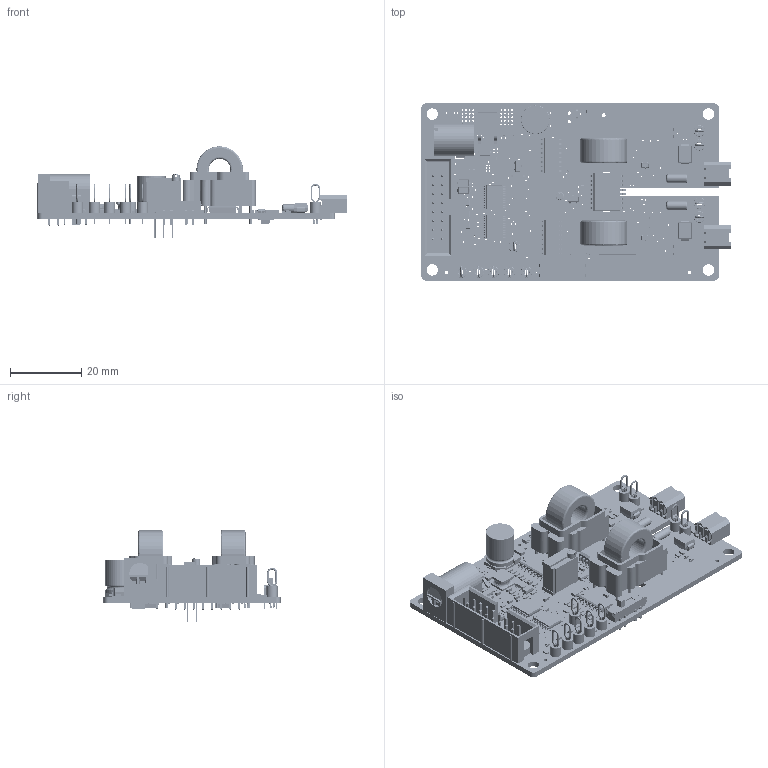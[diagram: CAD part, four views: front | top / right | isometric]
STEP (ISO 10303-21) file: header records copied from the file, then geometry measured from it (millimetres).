
FILE_DESCRIPTION(('for SolidWorks'),'2;1');
FILE_NAME('C:\Users\Taraz Tech1\Desktop\GDX-4A2S1.04.step', '2019-09-04T23:00:53',('Taraz Tech1'),(''), 'Open CASCADE STEP processor 6.6','DipTrace','Unknown');
FILE_SCHEMA(('AUTOMOTIVE_DESIGN { 1 0 10303 214 1 1 1 1 }'));
Length unit declared in the file: millimetre
Products named in the file (31): PCB_GDX-4A2S1.04; Board_GDX-4A2S1.04; CAP_1206; CAP_0603; CAP_8x10; LED_0603; DIO_SOD-123; DIO_SOD-323; DIO_DO-214AA; SOT-490; SOT323; CONN_IDC_2x8_BLK; CONN_DC-Jack_RA_163-179PH-EX; CONN_TB_2x2.5; CONN_TB_Jack_2x2.5_1814841; IND_4.9x4.9x3.1; SOT23; RES_0603; RES_0207_MELF; Slider_DP3T_thr_js203011cqn; TP_MP-BLK; TP_MP-ORG; TP_MP-GRY; TP_MP-RED; TRANS_P0584NL; TSSOP-20; TO252-3; SOIC16_300; SOT89; SOIC16-150mil; RES_POT_67Y
Assembly tree (144 placements, depth 2):
  PCB_GDX-4A2S1.04
    Board_GDX-4A2S1.04
    CAP_1206  x12
    CAP_0603  x27
    CAP_8x10
    LED_0603  x8
    DIO_SOD-123  x4
    DIO_SOD-323
    DIO_DO-214AA  x2
    SOT-490  x3
    SOT323  x2
    CONN_IDC_2x8_BLK
    CONN_DC-Jack_RA_163-179PH-EX
    CONN_TB_2x2.5
    CONN_TB_Jack_2x2.5_1814841  x2
    IND_4.9x4.9x3.1
    SOT23  x2
    RES_0603  x51
    RES_0207_MELF  x2
    Slider_DP3T_thr_js203011cqn
    TP_MP-BLK
    TP_MP-ORG  x5
    TP_MP-GRY  x2
    TP_MP-RED  x2
    TRANS_P0584NL  x2
    TSSOP-20  x2
    TO252-3
    SOIC16_300
    SOT89  x2
    SOIC16-150mil  x2
    RES_POT_67Y
Bounding box: 86.57 x 49.6 x 25.59 mm (x, y, z)
Volume: 8659.8 mm3; surface area: 22572.7 mm2
Topology: 66 solids, 372 shells, 12329 faces, 31173 edges, 19818 vertices
Faces by surface type: plane 6889, bspline 3121, cylinder 1861, sphere 312, torus 100, cone 22, extrusion 22, revolution 2
Full cylindrical faces by diameter (mm): 0.4 x201, 0.5 x40, 0.7 x3, 0.9 x14, 1 x22, 1.05 x3, 3.2 x4
Entity records: 143755 total; most frequent: CARTESIAN_POINT 29882, ORIENTED_EDGE 19534, DIRECTION 18803, EDGE_CURVE 9791, VECTOR 7295, LINE 7273, VERTEX_POINT 6258, AXIS2_PLACEMENT_3D 5753
